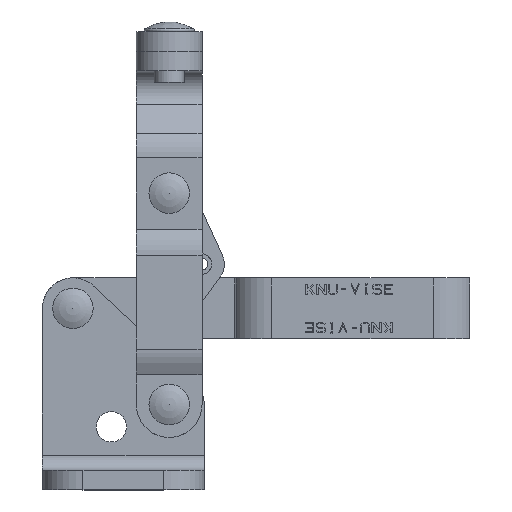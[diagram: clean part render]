
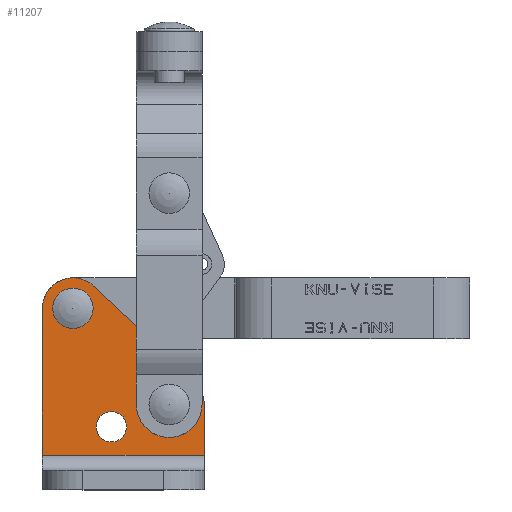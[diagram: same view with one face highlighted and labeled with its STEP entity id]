
A CAD part, top view. The second image highlights one B-rep face of the part: STEP entity #11207.
In plain terms, the highlighted planar face has unit normal (0, 0, 1).
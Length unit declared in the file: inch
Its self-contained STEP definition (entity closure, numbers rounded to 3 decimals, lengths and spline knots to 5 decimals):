
#81=B_SPLINE_CURVE_WITH_KNOTS('',3,(#17980,#17981,#17982,#17983),
 .UNSPECIFIED.,.F.,.F.,(4,4),(0.,1.),.UNSPECIFIED.);
#216=FACE_BOUND('',#2014,.T.);
#217=FACE_BOUND('',#2015,.T.);
#218=FACE_BOUND('',#2016,.T.);
#719=PLANE('',#11970);
#1291=FACE_OUTER_BOUND('',#2013,.T.);
#2013=EDGE_LOOP('',(#10340,#10341,#10342,#10343,#10344,#10345));
#2014=EDGE_LOOP('',(#10346));
#2015=EDGE_LOOP('',(#10347));
#2016=EDGE_LOOP('',(#10348));
#3363=LINE('',#17989,#4679);
#3370=LINE('',#18010,#4686);
#3375=LINE('',#18024,#4691);
#3376=LINE('',#18026,#4692);
#4679=VECTOR('',#14684,0.2921);
#4686=VECTOR('',#14699,0.907);
#4691=VECTOR('',#14714,0.83947);
#4692=VECTOR('',#14717,1.);
#4883=CIRCLE('',#11968,0.188);
#4884=CIRCLE('',#11971,0.0635);
#4885=CIRCLE('',#11972,0.094);
#4886=CIRCLE('',#11973,0.0635);
#5890=VERTEX_POINT('',#17977);
#5891=VERTEX_POINT('',#17979);
#5893=VERTEX_POINT('',#17988);
#5902=VERTEX_POINT('',#18007);
#5903=VERTEX_POINT('',#18009);
#5907=VERTEX_POINT('',#18019);
#5908=VERTEX_POINT('',#18027);
#5909=VERTEX_POINT('',#18029);
#5910=VERTEX_POINT('',#18031);
#7386=EDGE_CURVE('',#5890,#5891,#81,.T.);
#7389=EDGE_CURVE('',#5893,#5891,#3363,.T.);
#7399=EDGE_CURVE('',#5902,#5903,#3370,.T.);
#7404=EDGE_CURVE('',#5907,#5903,#4883,.T.);
#7407=EDGE_CURVE('',#5890,#5907,#3375,.T.);
#7408=EDGE_CURVE('',#5893,#5902,#3376,.T.);
#7409=EDGE_CURVE('',#5908,#5908,#4884,.T.);
#7410=EDGE_CURVE('',#5909,#5909,#4885,.T.);
#7411=EDGE_CURVE('',#5910,#5910,#4886,.T.);
#10340=ORIENTED_EDGE('',*,*,#7389,.T.);
#10341=ORIENTED_EDGE('',*,*,#7386,.F.);
#10342=ORIENTED_EDGE('',*,*,#7407,.T.);
#10343=ORIENTED_EDGE('',*,*,#7404,.T.);
#10344=ORIENTED_EDGE('',*,*,#7399,.F.);
#10345=ORIENTED_EDGE('',*,*,#7408,.F.);
#10346=ORIENTED_EDGE('',*,*,#7409,.F.);
#10347=ORIENTED_EDGE('',*,*,#7410,.F.);
#10348=ORIENTED_EDGE('',*,*,#7411,.F.);
#11207=ADVANCED_FACE('',(#1291,#216,#217,#218),#719,.F.);
#11968=AXIS2_PLACEMENT_3D('',#18020,#14708,#14709);
#11970=AXIS2_PLACEMENT_3D('',#18025,#14715,#14716);
#11971=AXIS2_PLACEMENT_3D('',#18028,#14718,#14719);
#11972=AXIS2_PLACEMENT_3D('',#18030,#14720,#14721);
#11973=AXIS2_PLACEMENT_3D('',#18032,#14722,#14723);
#14684=DIRECTION('',(0.,1.,0.));
#14699=DIRECTION('',(0.,1.,0.));
#14708=DIRECTION('center_axis',(0.,0.,
1.));
#14709=DIRECTION('ref_axis',(1.,0.,0.));
#14714=DIRECTION('',(-0.733,0.681,0.));
#14715=DIRECTION('center_axis',(0.,0.,
-1.));
#14716=DIRECTION('ref_axis',(1.,0.,0.));
#14717=DIRECTION('',(-1.,0.,0.));
#14718=DIRECTION('center_axis',(0.,0.,
1.));
#14719=DIRECTION('ref_axis',(1.,0.,0.));
#14720=DIRECTION('center_axis',(0.,0.,
1.));
#14721=DIRECTION('ref_axis',(1.,0.,0.));
#14722=DIRECTION('center_axis',(0.,0.,
1.));
#14723=DIRECTION('ref_axis',(1.,0.,0.));
#17977=CARTESIAN_POINT('',(-1.27496,-1.46718,1.32375));
#17979=CARTESIAN_POINT('',(-1.206,-1.64855,1.32375));
#17980=CARTESIAN_POINT('Ctrl Pts',(-1.27496,-1.46718,
1.32375));
#17981=CARTESIAN_POINT('Ctrl Pts',(-1.22597,-1.51269,
1.32375));
#17982=CARTESIAN_POINT('Ctrl Pts',(-1.206,-1.58035,1.32375));
#17983=CARTESIAN_POINT('Ctrl Pts',(-1.206,-1.64855,1.32375));
#17988=CARTESIAN_POINT('',(-1.206,-1.94065,1.32375));
#17989=CARTESIAN_POINT('',(-1.206,-2.03365,1.32375));
#18007=CARTESIAN_POINT('',(-2.206,-1.94065,1.32375));
#18009=CARTESIAN_POINT('',(-2.206,-1.03365,1.32375));
#18010=CARTESIAN_POINT('',(-2.206,-2.03365,1.32375));
#18019=CARTESIAN_POINT('',(-1.89006,-0.8959,1.32375));
#18020=CARTESIAN_POINT('Origin',(-2.018,-1.03365,1.32375));
#18024=CARTESIAN_POINT('',(-1.27496,-1.46718,1.32375));
#18025=CARTESIAN_POINT('Origin',(-1.22211,-1.54935,1.32375));
#18026=CARTESIAN_POINT('',(-2.206,-1.94065,1.32375));
#18027=CARTESIAN_POINT('',(-1.3605,-1.62765,1.32375));
#18028=CARTESIAN_POINT('Origin',(-1.424,-1.62765,1.32375));
#18029=CARTESIAN_POINT('',(-1.687,-1.76465,1.32375));
#18030=CARTESIAN_POINT('Origin',(-1.781,-1.76465,1.32375));
#18031=CARTESIAN_POINT('',(-1.9545,-1.03365,1.32375));
#18032=CARTESIAN_POINT('Origin',(-2.018,-1.03365,1.32375));
